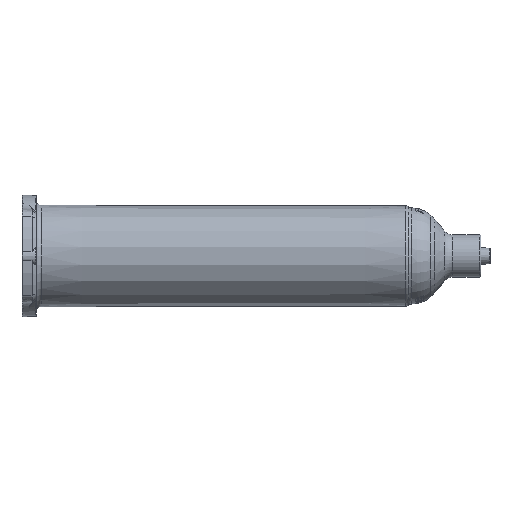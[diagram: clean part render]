
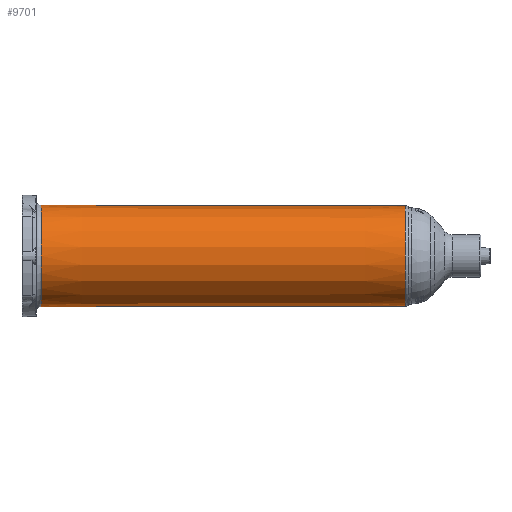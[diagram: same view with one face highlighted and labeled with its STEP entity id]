
A CAD part, left-side view. The second image highlights one B-rep face of the part: STEP entity #9701.
In plain terms, the highlighted conical face has half-angle 0.086 degrees and reference radius 12.63 mm.
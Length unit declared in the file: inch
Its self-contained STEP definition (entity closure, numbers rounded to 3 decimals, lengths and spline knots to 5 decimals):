
#327 = DIRECTION ( 'NONE',  ( 0., 0., 1. ) ) ;
#703 = ORIENTED_EDGE ( 'NONE', *, *, #23600, .T. ) ;
#732 = AXIS2_PLACEMENT_3D ( 'NONE', #3991, #23673, #11877 ) ;
#1474 = ORIENTED_EDGE ( 'NONE', *, *, #13525, .T. ) ;
#2626 = CARTESIAN_POINT ( 'NONE',  ( 0., 0.83341, 0.49726 ) ) ;
#3428 = VERTEX_POINT ( 'NONE', #17368 ) ;
#3991 = CARTESIAN_POINT ( 'NONE',  ( 0., 0.83896, 0. ) ) ;
#6363 = DIRECTION ( 'NONE',  ( 0., 1., 0.002 ) ) ;
#8703 = FACE_OUTER_BOUND ( 'NONE', #16764, .T. ) ;
#9654 = CARTESIAN_POINT ( 'NONE',  ( 0., 0.83341, 0. ) ) ;
#9701 = ADVANCED_FACE ( 'NONE', ( #8703 ), #18566, .T. ) ;
#10184 = ORIENTED_EDGE ( 'NONE', *, *, #25232, .T. ) ;
#10930 = CARTESIAN_POINT ( 'NONE',  ( 0., 0.83341, -0.49726 ) ) ;
#11649 = DIRECTION ( 'NONE',  ( 0., 1., 0. ) ) ;
#11877 = DIRECTION ( 'NONE',  ( 0., 0., -1. ) ) ;
#12025 = LINE ( 'NONE', #10930, #23120 ) ;
#12074 = DIRECTION ( 'NONE',  ( 0., -1., 0. ) ) ;
#12160 = CARTESIAN_POINT ( 'NONE',  ( 0., 4.44908, 0. ) ) ;
#12299 = VERTEX_POINT ( 'NONE', #21302 ) ;
#13449 = EDGE_CURVE ( 'NONE', #20549, #12299, #12025, .T. ) ;
#13525 = EDGE_CURVE ( 'NONE', #20549, #14863, #21250, .T. ) ;
#14450 = VECTOR ( 'NONE', #6363, 39.37008 ) ;
#14863 = VERTEX_POINT ( 'NONE', #19812 ) ;
#15268 = DIRECTION ( 'NONE',  ( 0., 1., -0.002 ) ) ;
#15312 = ORIENTED_EDGE ( 'NONE', *, *, #13449, .F. ) ;
#16764 = EDGE_LOOP ( 'NONE', ( #15312, #1474, #10184, #703 ) ) ;
#17323 = DIRECTION ( 'NONE',  ( 0., 0., 1. ) ) ;
#17368 = CARTESIAN_POINT ( 'NONE',  ( 0., 4.44908, 0.50271 ) ) ;
#18566 = CONICAL_SURFACE ( 'NONE', #23911, 0.49726, 0.002 ) ;
#19050 = LINE ( 'NONE', #2626, #14450 ) ;
#19812 = CARTESIAN_POINT ( 'NONE',  ( 0., 0.83896, 0.49727 ) ) ;
#20006 = CIRCLE ( 'NONE', #21655, 0.50271 ) ;
#20549 = VERTEX_POINT ( 'NONE', #21077 ) ;
#21077 = CARTESIAN_POINT ( 'NONE',  ( 0., 0.83896, -0.49727 ) ) ;
#21250 = CIRCLE ( 'NONE', #732, 0.49727 ) ;
#21302 = CARTESIAN_POINT ( 'NONE',  ( 0., 4.44908, -0.50271 ) ) ;
#21655 = AXIS2_PLACEMENT_3D ( 'NONE', #12160, #12074, #327 ) ;
#23120 = VECTOR ( 'NONE', #15268, 39.37008 ) ;
#23600 = EDGE_CURVE ( 'NONE', #3428, #12299, #20006, .T. ) ;
#23673 = DIRECTION ( 'NONE',  ( 0., 1., 0. ) ) ;
#23911 = AXIS2_PLACEMENT_3D ( 'NONE', #9654, #11649, #17323 ) ;
#25232 = EDGE_CURVE ( 'NONE', #14863, #3428, #19050, .T. ) ;
